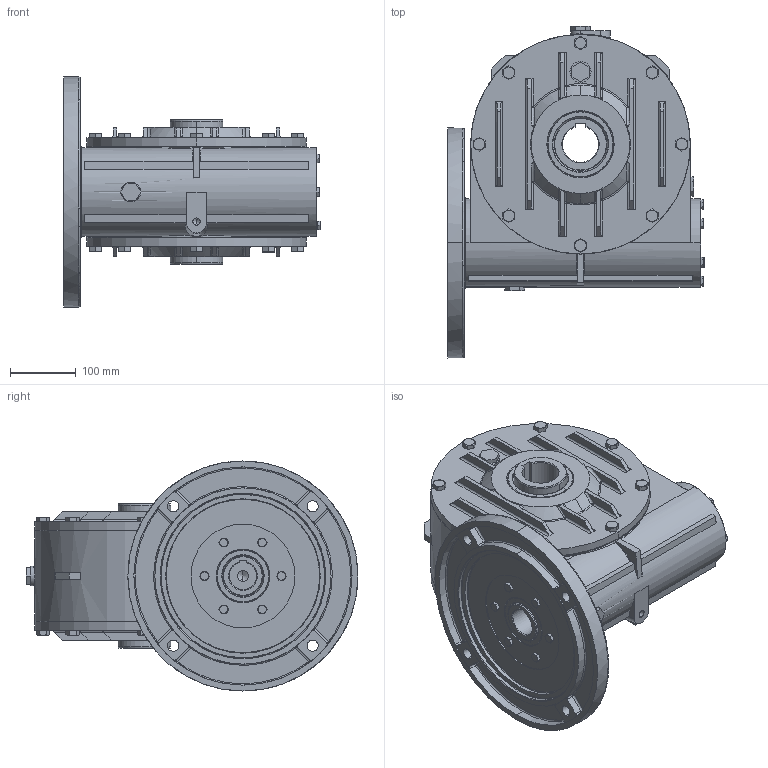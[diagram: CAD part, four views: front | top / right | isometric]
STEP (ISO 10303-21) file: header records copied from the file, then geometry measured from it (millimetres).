
FILE_DESCRIPTION (( 'STEP AP203' ), '1' );
FILE_NAME ('3F002509.STEP', '2012-07-26T07:50:04', ( 'Amministratore' ), ( 'SerteK sas' ), 'SwSTEP 2.0', 'SolidWorks 2009', '' );
FILE_SCHEMA (( 'CONFIG_CONTROL_DESIGN' ));
Products named in the file (1): 3F002509
Bounding box: 390.3 x 505 x 350 mm (x, y, z)
Surface area: 1507300.2 mm2 (no closed solid volume)
Topology: 0 solids, 58 shells, 1990 faces, 4841 edges, 3005 vertices
Faces by surface type: plane 673, cylinder 596, bspline 376, cone 345
Entity records: 89400 total; most frequent: CARTESIAN_POINT 45203, ORIENTED_EDGE 9484, DIRECTION 8785, EDGE_CURVE 4754, AXIS2_PLACEMENT_3D 3432, VERTEX_POINT 3005, EDGE_LOOP 2201, ADVANCED_FACE 1990
